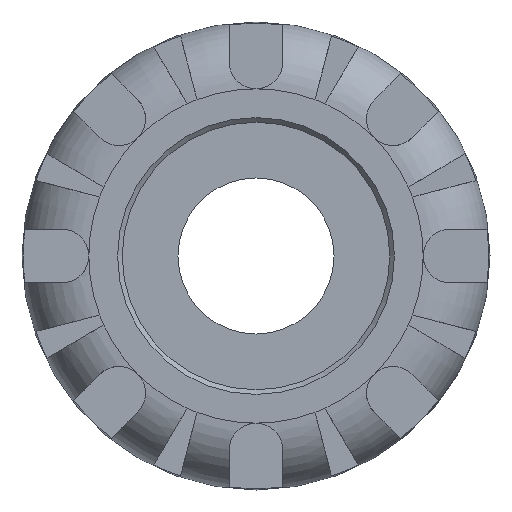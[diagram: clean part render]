
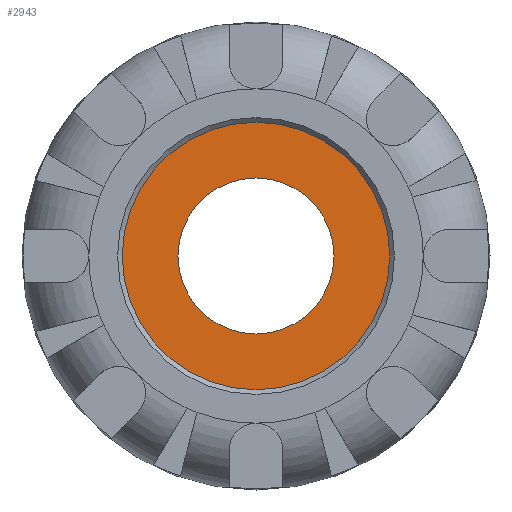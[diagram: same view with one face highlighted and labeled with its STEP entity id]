
A CAD part, left-side view. The second image highlights one B-rep face of the part: STEP entity #2943.
In plain terms, the highlighted planar face has unit normal (-1, 0, 0).
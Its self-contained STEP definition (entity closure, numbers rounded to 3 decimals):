
#34=FACE_BOUND('',#582,.T.);
#147=CIRCLE('',#3142,20.);
#188=CIRCLE('',#3257,11.667);
#402=FACE_OUTER_BOUND('',#581,.T.);
#581=EDGE_LOOP('',(#2503));
#582=EDGE_LOOP('',(#2504));
#1165=VERTEX_POINT('',#5473);
#1256=VERTEX_POINT('',#6532);
#1511=EDGE_CURVE('',#1165,#1165,#147,.T.);
#1672=EDGE_CURVE('',#1256,#1256,#188,.T.);
#2503=ORIENTED_EDGE('',*,*,#1511,.F.);
#2504=ORIENTED_EDGE('',*,*,#1672,.T.);
#2612=PLANE('',#3258);
#2943=ADVANCED_FACE('',(#402,#34),#2612,.T.);
#3142=AXIS2_PLACEMENT_3D('',#5474,#3729,#3730);
#3257=AXIS2_PLACEMENT_3D('',#6533,#4027,#4028);
#3258=AXIS2_PLACEMENT_3D('',#6534,#4029,#4030);
#3729=DIRECTION('center_axis',(1.,0.,0.));
#3730=DIRECTION('ref_axis',(0.,0.,-1.));
#4027=DIRECTION('center_axis',(1.,0.,0.));
#4028=DIRECTION('ref_axis',(0.,0.,-1.));
#4029=DIRECTION('center_axis',(-1.,0.,0.));
#4030=DIRECTION('ref_axis',(0.,0.,1.));
#5473=CARTESIAN_POINT('',(1.5,20.,0.));
#5474=CARTESIAN_POINT('Origin',(1.5,0.,0.));
#6532=CARTESIAN_POINT('',(1.5,11.667,0.));
#6533=CARTESIAN_POINT('Origin',(1.5,0.,0.));
#6534=CARTESIAN_POINT('Origin',(1.5,20.,0.));
